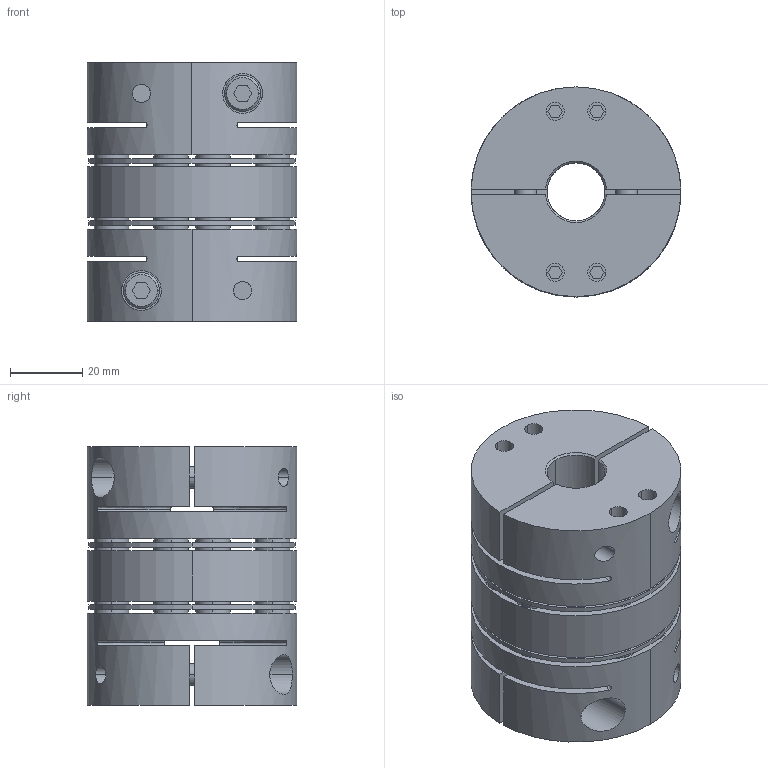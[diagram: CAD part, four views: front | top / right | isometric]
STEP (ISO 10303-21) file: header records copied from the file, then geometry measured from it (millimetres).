
FILE_DESCRIPTION((''),'2;1');
FILE_NAME('TAD-58C-16×19.stp','2022-11-13T22:00:08',(''),(''),'AutoCAD STEP 2000i','AutoCAD 2000i',', , ');
FILE_SCHEMA(('CONFIG_CONTROL_DESIGN'));
Length unit declared in the file: millimetre
Products named in the file (6): TAD-58C-12×12; 忣兜1; TA58C-12-2; CAP-M6×20; TA58C-12; TAS-58C-ITA
Assembly tree (6 placements, depth 3):
  TAD-58C-12×12
    忣兜1
    TA58C-12-2
      CAP-M6×20
    TA58C-12
      CAP-M6×20
    TAS-58C-ITA
Bounding box: 58 x 58 x 71.5 mm (x, y, z)
Volume: 136478.2 mm3; surface area: 56221 mm2
Topology: 1 solids, 5 shells, 568 faces, 1356 edges, 920 vertices
Faces by surface type: plane 252, cylinder 228, cone 72, bspline 16
Entity records: 18581 total; most frequent: CARTESIAN_POINT 4799, DIRECTION 2994, ORIENTED_EDGE 2640, EDGE_CURVE 1320, AXIS2_PLACEMENT_3D 1139, VERTEX_POINT 860, EDGE_LOOP 724, VECTOR 716
